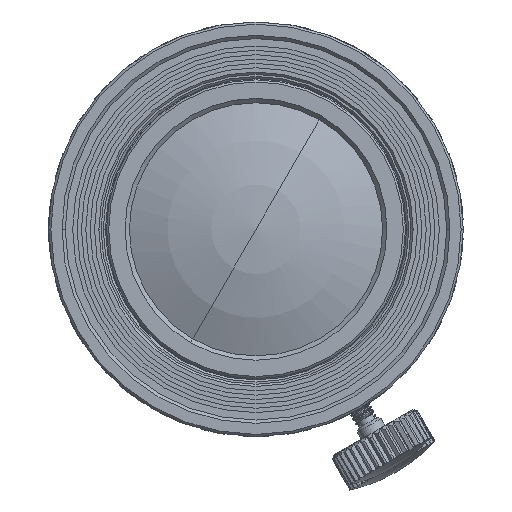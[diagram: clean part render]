
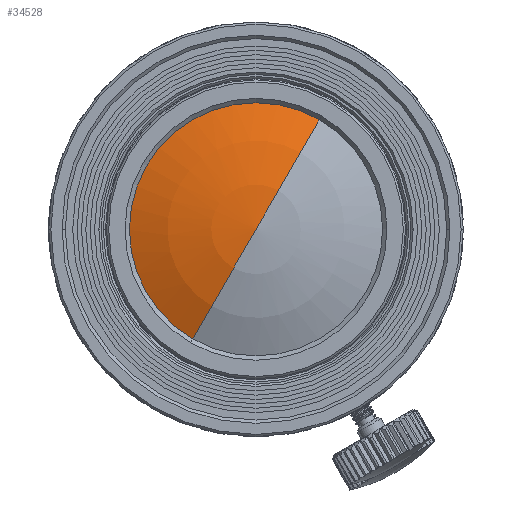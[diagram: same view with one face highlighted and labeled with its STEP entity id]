
A CAD part, left-side view. The second image highlights one B-rep face of the part: STEP entity #34528.
In plain terms, the highlighted spherical face has radius 30.423 mm.
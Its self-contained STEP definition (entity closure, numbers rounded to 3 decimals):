
#34385=CARTESIAN_POINT('',(-9.995,0.,0.));
#34386=DIRECTION('',(0.,-0.866,-0.5));
#34387=DIRECTION('',(-0.919,-0.197,0.342));
#34388=AXIS2_PLACEMENT_3D('',#34385,#34386,#34387);
#34390=CARTESIAN_POINT('',(-9.995,0.,0.));
#34391=DIRECTION('',(0.,-0.866,-0.5));
#34392=DIRECTION('',(-1.,0.,0.));
#34393=AXIS2_PLACEMENT_3D('',#34390,#34391,#34392);
#34395=CARTESIAN_POINT('',(-37.951,0.,0.));
#34396=DIRECTION('',(-1.,0.,0.));
#34397=DIRECTION('',(0.,-0.5,0.866));
#34398=AXIS2_PLACEMENT_3D('',#34395,#34396,#34397);
#34479=CARTESIAN_POINT('',(-37.951,-6.,
10.392));
#34480=CARTESIAN_POINT('',(-40.418,0.,0.));
#34481=VERTEX_POINT('',#34479);
#34482=VERTEX_POINT('',#34480);
#34483=CARTESIAN_POINT('',(-37.951,6.,-10.392));
#34484=VERTEX_POINT('',#34483);
#34517=CARTESIAN_POINT('',(-9.995,0.,0.));
#34518=DIRECTION('',(1.,0.,0.));
#34519=DIRECTION('',(0.,-0.5,0.866));
#34520=AXIS2_PLACEMENT_3D('',#34517,#34518,#34519);
#34521=SPHERICAL_SURFACE('',#34520,30.423);
#34522=ORIENTED_EDGE('',*,*,#34508,.T.);
#34523=ORIENTED_EDGE('',*,*,#34512,.T.);
#34525=ORIENTED_EDGE('',*,*,#34524,.F.);
#34526=EDGE_LOOP('',(#34522,#34523,#34525));
#34527=FACE_OUTER_BOUND('',#34526,.F.);
#34389=CIRCLE('',#34388,30.423);
#34394=CIRCLE('',#34393,30.423);
#34399=CIRCLE('',#34398,12.);
#34508=EDGE_CURVE('',#34481,#34482,#34389,.T.);
#34512=EDGE_CURVE('',#34482,#34484,#34394,.T.);
#34524=EDGE_CURVE('',#34481,#34484,#34399,.T.);
#34528=ADVANCED_FACE('',(#34527),#34521,.T.);
